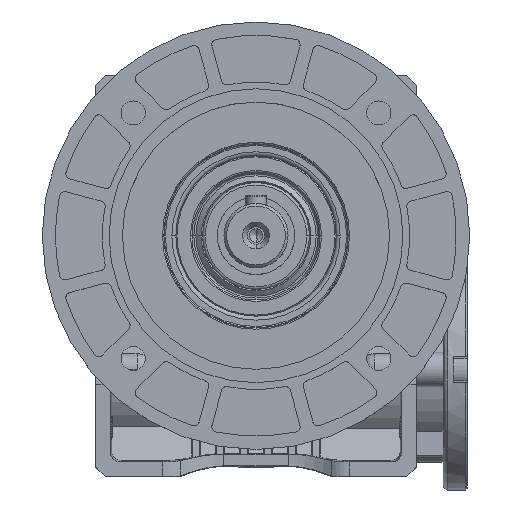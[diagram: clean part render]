
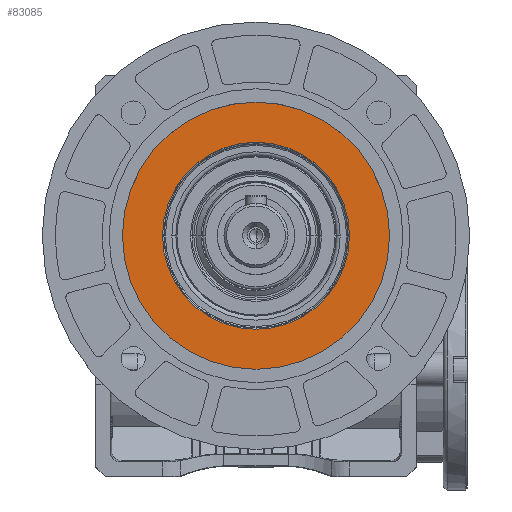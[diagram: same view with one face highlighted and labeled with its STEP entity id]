
A CAD part, top view. The second image highlights one B-rep face of the part: STEP entity #83085.
In plain terms, the highlighted planar face has unit normal (0, 0, 1).
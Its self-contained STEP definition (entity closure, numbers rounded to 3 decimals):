
#1959 = DIRECTION ( 'NONE',  ( 0., 0., -1. ) ) ;
#5842 = CARTESIAN_POINT ( 'NONE',  ( -35., 0., 96. ) ) ;
#8944 = VERTEX_POINT ( 'NONE', #87372 ) ;
#15366 = DIRECTION ( 'NONE',  ( 1., 0., 0. ) ) ;
#20922 = CARTESIAN_POINT ( 'NONE',  ( 0., 0., 96. ) ) ;
#23399 = EDGE_CURVE ( 'NONE', #88430, #53593, #31104, .T. ) ;
#23934 = AXIS2_PLACEMENT_3D ( 'NONE', #43782, #52121, #95454 ) ;
#24261 = DIRECTION ( 'NONE',  ( 0., 0., -1. ) ) ;
#24408 = ORIENTED_EDGE ( 'NONE', *, *, #92933, .F. ) ;
#24863 = CARTESIAN_POINT ( 'NONE',  ( 0., 0., 96. ) ) ;
#25441 = AXIS2_PLACEMENT_3D ( 'NONE', #24863, #78991, #87892 ) ;
#26426 = CIRCLE ( 'NONE', #64366, 35. ) ;
#27306 = ORIENTED_EDGE ( 'NONE', *, *, #74957, .F. ) ;
#31104 = CIRCLE ( 'NONE', #25441, 35. ) ;
#32527 = FACE_OUTER_BOUND ( 'NONE', #76862, .T. ) ;
#36445 = AXIS2_PLACEMENT_3D ( 'NONE', #102798, #95657, #48828 ) ;
#37545 = VERTEX_POINT ( 'NONE', #58946 ) ;
#38126 = DIRECTION ( 'NONE',  ( 1., 0., 0. ) ) ;
#40186 = CIRCLE ( 'NONE', #36445, 50. ) ;
#43782 = CARTESIAN_POINT ( 'NONE',  ( 0., -50., 96. ) ) ;
#48828 = DIRECTION ( 'NONE',  ( 1., 0., 0. ) ) ;
#50963 = CARTESIAN_POINT ( 'NONE',  ( 0., 0., 96. ) ) ;
#52121 = DIRECTION ( 'NONE',  ( 0., 0., -1. ) ) ;
#53593 = VERTEX_POINT ( 'NONE', #5842 ) ;
#58946 = CARTESIAN_POINT ( 'NONE',  ( 50., 0., 96. ) ) ;
#63840 = ORIENTED_EDGE ( 'NONE', *, *, #23399, .T. ) ;
#64366 = AXIS2_PLACEMENT_3D ( 'NONE', #20922, #1959, #38126 ) ;
#66928 = CIRCLE ( 'NONE', #76332, 50. ) ;
#72813 = EDGE_LOOP ( 'NONE', ( #63840, #107704 ) ) ;
#74957 = EDGE_CURVE ( 'NONE', #37545, #8944, #40186, .T. ) ;
#76332 = AXIS2_PLACEMENT_3D ( 'NONE', #50963, #24261, #15366 ) ;
#76862 = EDGE_LOOP ( 'NONE', ( #27306, #24408 ) ) ;
#78991 = DIRECTION ( 'NONE',  ( 0., 0., -1. ) ) ;
#83085 = ADVANCED_FACE ( 'NONE', ( #32527, #113855 ), #97759, .F. ) ;
#87372 = CARTESIAN_POINT ( 'NONE',  ( -50., 0., 96. ) ) ;
#87892 = DIRECTION ( 'NONE',  ( 1., 0., 0. ) ) ;
#88430 = VERTEX_POINT ( 'NONE', #98943 ) ;
#92933 = EDGE_CURVE ( 'NONE', #8944, #37545, #66928, .T. ) ;
#95454 = DIRECTION ( 'NONE',  ( 1., 0., 0. ) ) ;
#95657 = DIRECTION ( 'NONE',  ( 0., 0., -1. ) ) ;
#97759 = PLANE ( 'NONE',  #23934 ) ;
#98943 = CARTESIAN_POINT ( 'NONE',  ( 35., 0., 96. ) ) ;
#102798 = CARTESIAN_POINT ( 'NONE',  ( 0., 0., 96. ) ) ;
#103034 = EDGE_CURVE ( 'NONE', #53593, #88430, #26426, .T. ) ;
#107704 = ORIENTED_EDGE ( 'NONE', *, *, #103034, .T. ) ;
#113855 = FACE_BOUND ( 'NONE', #72813, .T. ) ;
